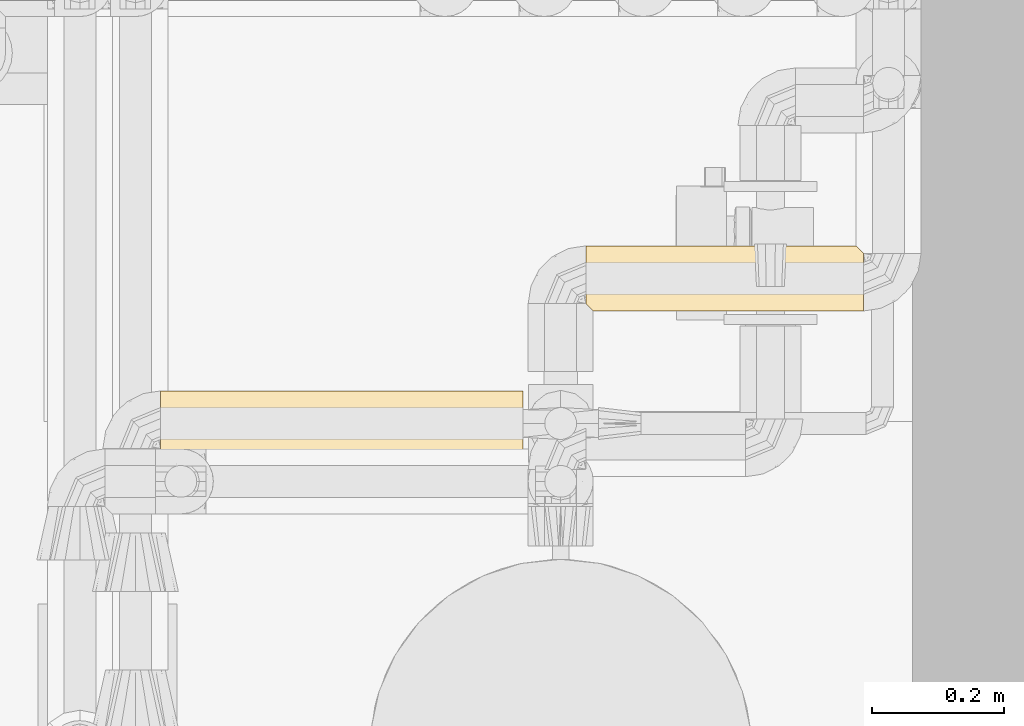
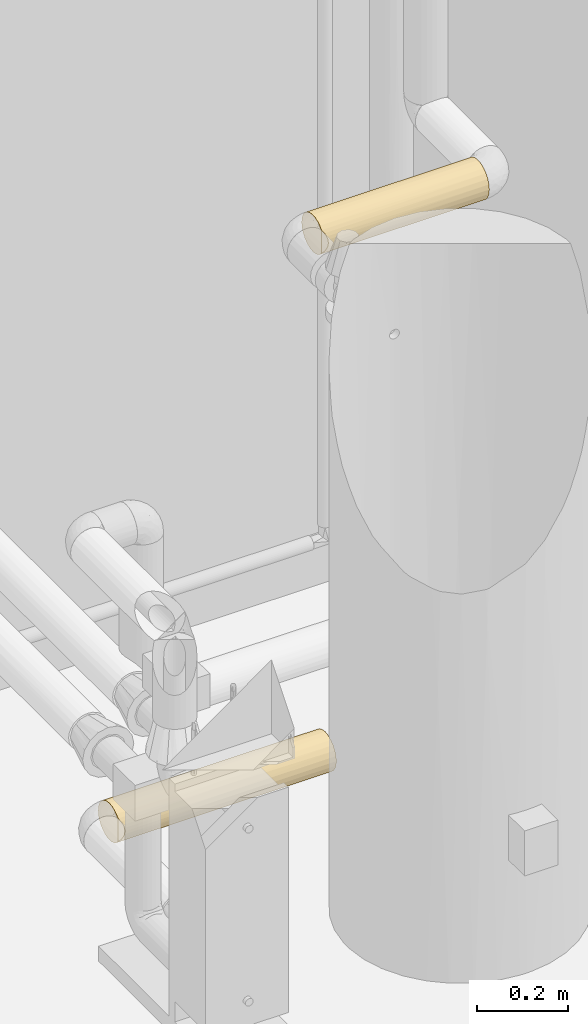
# One storey, part 38 of 94: 2 coverings.
"""IFC2X3 building model written with IfcOpenShell, lengths in millimetres."""

import ifcopenshell
import ifcopenshell.guid

model = None  # the IFC model being written
_history = None  # IfcOwnerHistory: only IFC2X3 demands one
_inside = {}  # id of a spatial element -> (the spatial element, [elements in it])
_under = {}  # id of a project, library or spatial element -> (it, [spatial elements below it])
_declared = {}  # id of a project -> (the project, [libraries it declares])
_typed = {}  # id of a type object -> (the type object, [elements of that type])
_made_of = {}  # id of a material, layer set ... -> (it, [elements and type objects made of it])


def new_model(schema):
    """Start an empty IFC model of exactly this schema.

    Asked for "IFC4X3", IfcOpenShell would pick the latest addendum, in which some entities
    have other attributes; the version numbers below select the first issue.
    IFC2X3 requires an IfcOwnerHistory on every rooted entity: one is made here for all.
    """
    global model, _history
    if schema == "IFC4X3":
        model = ifcopenshell.file(schema_version=(4, 3, 0, 0))
    else:
        model = ifcopenshell.file(schema=schema)
    _inside.clear()
    _under.clear()
    _declared.clear()
    _typed.clear()
    _made_of.clear()
    _history = None
    if model.schema == "IFC2X3":
        org = make("IfcOrganization", Name="unknown")
        user = make(
            "IfcPersonAndOrganization",
            ThePerson=make("IfcPerson", FamilyName="unknown"),
            TheOrganization=org,
        )
        app = make(
            "IfcApplication",
            ApplicationDeveloper=org,
            Version="unknown",
            ApplicationFullName="unknown",
            ApplicationIdentifier="unknown",
        )
        _history = make(
            "IfcOwnerHistory",
            OwningUser=user,
            OwningApplication=app,
            ChangeAction="ADDED",
            CreationDate=0,
        )
    return model


def make(cls, **values):
    """One entity of the class cls with the attributes given. An attribute that is None is left unset."""
    return model.create_entity(
        cls, **{name: value for name, value in values.items() if value is not None}
    )


def entity(cls, *values):
    """Any entity or typed value of the class cls, its attributes in the order of the schema. None: left unset."""
    e = model.create_entity(cls)
    for i, value in enumerate(values):
        if value is not None:
            e[i] = value
    return e


def rooted(cls, **values):
    """An entity with a GlobalId (a new one), such as an element, a storey or a relation."""
    return make(cls, GlobalId=ifcopenshell.guid.new(), OwnerHistory=_history, **values)


def si_unit(unit_type, name, prefix=None):
    """IfcSIUnit, for example si_unit("LENGTHUNIT", "METRE", prefix="MILLI")."""
    return make("IfcSIUnit", UnitType=unit_type, Prefix=prefix, Name=name)


def converted_unit(unit_type, name, factor, base, dimensions=None, offset=None):
    """IfcConversionBasedUnit, such as the inch: factor (a typed value) times the base unit."""
    return make(
        "IfcConversionBasedUnit"
        if offset is None
        else "IfcConversionBasedUnitWithOffset",
        ConversionOffset=offset,
        Dimensions=None
        if dimensions is None
        else entity("IfcDimensionalExponents", *dimensions),
        UnitType=unit_type,
        Name=name,
        ConversionFactor=make(
            "IfcMeasureWithUnit", ValueComponent=factor, UnitComponent=base
        ),
    )


def derived_unit(unit_type, elements):
    """IfcDerivedUnit: a product of units, each with its exponent."""
    return make(
        "IfcDerivedUnit",
        Elements=[
            make("IfcDerivedUnitElement", Unit=unit, Exponent=power)
            for unit, power in elements
        ],
        UnitType=unit_type,
    )


def assignment(units):
    """IfcUnitAssignment: the units of a project."""
    return None if units is None else make("IfcUnitAssignment", Units=units)


def point(xyz):
    """IfcCartesianPoint."""
    return None if xyz is None else make("IfcCartesianPoint", Coordinates=xyz)


def direction(xyz):
    """IfcDirection."""
    return None if xyz is None else make("IfcDirection", DirectionRatios=xyz)


def frame(location, z_axis=None, x_axis=None):
    """IfcAxis2Placement3D, a coordinate frame: its origin and axes. An axis left out is left unset."""
    return make(
        "IfcAxis2Placement3D",
        Location=point(location),
        Axis=direction(z_axis),
        RefDirection=direction(x_axis),
    )


def origin():
    """The frame at (0, 0, 0) with its axes left unset."""
    return frame((0.0, 0.0, 0.0))


def place(relative_to, where):
    """IfcLocalPlacement: puts the frame where relative to a parent placement (None: the world)."""
    return make(
        "IfcLocalPlacement", PlacementRelTo=relative_to, RelativePlacement=where
    )


def context(
    kind, dimensions, precision=None, world=None, true_north=None, identifier=None
):
    """IfcGeometricRepresentationContext, for example the 3D "Model" context."""
    return make(
        "IfcGeometricRepresentationContext",
        ContextIdentifier=identifier,
        ContextType=kind,
        CoordinateSpaceDimension=dimensions,
        Precision=precision,
        WorldCoordinateSystem=world,
        TrueNorth=true_north,
    )


def subcontext(parent, identifier, kind, view, scale=None):
    """IfcGeometricRepresentationSubContext, for example "Body" below "Model"."""
    return make(
        "IfcGeometricRepresentationSubContext",
        ContextIdentifier=identifier,
        ContextType=kind,
        ParentContext=parent,
        TargetScale=scale,
        TargetView=view,
    )


def project(units=None, contexts=None):
    """IfcProject with its units and contexts."""
    return rooted(
        "IfcProject",
        Name="project",
        RepresentationContexts=contexts,
        UnitsInContext=assignment(units),
    )


def spatial(cls, under=None, at=None, **own):
    """A site, building, storey or space (cls), placed at a placement, below another one or the project."""
    s = rooted(cls, ObjectPlacement=at, **own)
    if under is not None:
        _under.setdefault(under.id(), (under, []))[1].append(s)
    return s


def faces_of(points, faces, orient=None, outer=None):
    """IfcFace entities. A face is a list of loops; a loop is a list of indices into points, from 0.

    orient and outer hold one flag for each loop. By default every Orientation is true, the
    first loop of a face is its IfcFaceOuterBound and the others are IfcFaceBound.
    """
    made = []
    for i, loops in enumerate(faces):
        bounds = []
        for j, loop in enumerate(loops):
            is_outer = j == 0 if outer is None else outer[i][j]
            bounds.append(
                make(
                    "IfcFaceOuterBound" if is_outer else "IfcFaceBound",
                    Bound=make("IfcPolyLoop", Polygon=[points[k] for k in loop]),
                    Orientation=True if orient is None else orient[i][j],
                )
            )
        made.append(make("IfcFace", Bounds=bounds))
    return made


def faceted_brep(points, faces, orient=None, outer=None, voids=None):
    """IfcFacetedBrep: a solid bounded by flat faces; with voids (closed shells), ...WithVoids."""
    shared = [point(p) for p in points]
    hull = make("IfcClosedShell", CfsFaces=faces_of(shared, faces, orient, outer))
    if voids is None:
        return make("IfcFacetedBrep", Outer=hull)
    return make(
        "IfcFacetedBrepWithVoids",
        Outer=hull,
        Voids=[
            make(cls, CfsFaces=faces_of(shared, fs, o, b)) for cls, fs, o, b in voids
        ],
    )


def shape(context_of_items, identifier, shape_type, items):
    """IfcShapeRepresentation: the items that make up one representation, for example the "Body"."""
    return make(
        "IfcShapeRepresentation",
        ContextOfItems=context_of_items,
        RepresentationIdentifier=identifier,
        RepresentationType=shape_type,
        Items=items,
    )


def material(Name=None, Category=None):
    """IfcMaterial."""
    return make("IfcMaterial", Name=Name, Category=Category)


def made_of(thing, what):
    """Note that an element or type object is made of a material, layer set ...; save() writes the relation."""
    if what is not None:
        _made_of.setdefault(what.id(), (what, []))[1].append(thing)
    return thing


def element(
    cls,
    number,
    at=None,
    inside=None,
    cuts=None,
    type_object=None,
    material=None,
    context=None,
    identifier="Body",
    shape_type=None,
    held_by="IfcProductDefinitionShape",
    body=None,
    shapes=None,
    **own,
):
    """One element of the class cls, such as IfcWall. Its Tag is "e" and its number.

    at: its placement. inside: the storey or other place that contains it. cuts: it is an
    opening in that element (IfcRelVoidsElement). A single representation is given by context,
    identifier, shape_type and body (its items); several are given by shapes. held_by: the class
    of the entity that holds the representations. save() writes the other relations.
    """
    e = rooted(cls, Tag="e%d" % number, ObjectPlacement=at, **own)
    if body is not None:
        shapes = [shape(context, identifier, shape_type, body)]
    if shapes is not None:
        e.Representation = make(held_by, Representations=shapes)
    if inside is not None:
        _inside.setdefault(inside.id(), (inside, []))[1].append(e)
    if cuts is not None:
        rooted(
            "IfcRelVoidsElement", RelatingBuildingElement=cuts, RelatedOpeningElement=e
        )
    if type_object is not None:
        _typed.setdefault(type_object.id(), (type_object, []))[1].append(e)
    return made_of(e, material)


def aggregate(whole, parts):
    """IfcRelAggregates: a whole, such as a stair, and the parts it consists of."""
    return rooted("IfcRelAggregates", RelatingObject=whole, RelatedObjects=parts)


def save(model, path):
    """Write the relations noted so far, then the file.

    IfcRelAggregates (storeys below a building ...), IfcRelContainedInSpatialStructure (elements
    in a storey), IfcRelDefinesByType, IfcRelAssociatesMaterial and IfcRelDeclares: one each for
    every whole, place, type object, material and project.
    """
    for whole, parts in _under.values():
        aggregate(whole, parts)
    for where, things in _inside.values():
        rooted(
            "IfcRelContainedInSpatialStructure",
            RelatedElements=things,
            RelatingStructure=where,
        )
    for kind, things in _typed.values():
        rooted("IfcRelDefinesByType", RelatedObjects=things, RelatingType=kind)
    for what, things in _made_of.values():
        rooted("IfcRelAssociatesMaterial", RelatedObjects=things, RelatingMaterial=what)
    for by, libraries in _declared.values():
        rooted("IfcRelDeclares", RelatingContext=by, RelatedDefinitions=libraries)
    model.write(path)


model = new_model("IFC2X3")

# Units and contexts
model_context = context("Model", 3, precision=0.01, world=origin(), true_north=direction((6.123031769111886e-17, 1.0)))
body_context = subcontext(model_context, "Body", "Model", "MODEL_VIEW")
ifc_project = project(units=[si_unit("LENGTHUNIT", "METRE", prefix="MILLI"), si_unit("AREAUNIT", "SQUARE_METRE"), si_unit("VOLUMEUNIT", "CUBIC_METRE"), converted_unit("PLANEANGLEUNIT", "DEGREE", entity("IfcRatioMeasure", 0.017453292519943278), si_unit("PLANEANGLEUNIT", "RADIAN"), dimensions=[0, 0, 0, 0, 0, 0, 0]), si_unit("MASSUNIT", "GRAM", prefix="KILO"), derived_unit("MASSDENSITYUNIT", [(si_unit("MASSUNIT", "GRAM", prefix="KILO"), 1), (si_unit("LENGTHUNIT", "METRE"), -3)]), derived_unit("IONCONCENTRATIONUNIT", [(si_unit("MASSUNIT", "GRAM", prefix="KILO"), 1), (si_unit("LENGTHUNIT", "METRE"), -3)]), derived_unit("MOMENTOFINERTIAUNIT", [(si_unit("LENGTHUNIT", "METRE"), 4)]), si_unit("TIMEUNIT", "SECOND"), si_unit("FREQUENCYUNIT", "HERTZ"), si_unit("THERMODYNAMICTEMPERATUREUNIT", "DEGREE_CELSIUS"), derived_unit("THERMALTRANSMITTANCEUNIT", [(si_unit("MASSUNIT", "GRAM", prefix="KILO"), 1), (si_unit("THERMODYNAMICTEMPERATUREUNIT", "KELVIN"), -1), (si_unit("TIMEUNIT", "SECOND"), -3)]), derived_unit("THERMALCONDUCTANCEUNIT", [(si_unit("MASSUNIT", "GRAM", prefix="KILO"), 1), (si_unit("THERMODYNAMICTEMPERATUREUNIT", "KELVIN"), -1), (si_unit("TIMEUNIT", "SECOND"), -3), (si_unit("LENGTHUNIT", "METRE"), 1)]), derived_unit("VOLUMETRICFLOWRATEUNIT", [(si_unit("LENGTHUNIT", "METRE"), 3), (si_unit("TIMEUNIT", "SECOND"), -1)]), derived_unit("MASSFLOWRATEUNIT", [(si_unit("MASSUNIT", "GRAM", prefix="KILO"), 1), (si_unit("TIMEUNIT", "SECOND"), -1)]), derived_unit("ROTATIONALFREQUENCYUNIT", [(si_unit("TIMEUNIT", "SECOND"), -1)]), si_unit("ELECTRICCURRENTUNIT", "AMPERE"), si_unit("ELECTRICVOLTAGEUNIT", "VOLT"), si_unit("POWERUNIT", "WATT"), si_unit("FORCEUNIT", "NEWTON", prefix="KILO"), si_unit("ILLUMINANCEUNIT", "LUX"), si_unit("LUMINOUSFLUXUNIT", "LUMEN"), si_unit("LUMINOUSINTENSITYUNIT", "CANDELA"), derived_unit("USERDEFINED", [(si_unit("MASSUNIT", "GRAM", prefix="KILO"), -1), (si_unit("LENGTHUNIT", "METRE"), -2), (si_unit("TIMEUNIT", "SECOND"), 3), (si_unit("LUMINOUSFLUXUNIT", "LUMEN"), 1)]), derived_unit("USERDEFINED", [(si_unit("MASSUNIT", "GRAM", prefix="KILO"), 1), (si_unit("TIMEUNIT", "SECOND"), -3), (si_unit("LENGTHUNIT", "METRE"), 3), (si_unit("ELECTRICCURRENTUNIT", "AMPERE"), -2)]), derived_unit("SOUNDPOWERUNIT", [(si_unit("MASSUNIT", "GRAM", prefix="KILO"), 1), (si_unit("TIMEUNIT", "SECOND"), -3), (si_unit("LENGTHUNIT", "METRE"), 2)]), derived_unit("SOUNDPRESSUREUNIT", [(si_unit("MASSUNIT", "GRAM", prefix="KILO"), 1), (si_unit("LENGTHUNIT", "METRE"), -1), (si_unit("TIMEUNIT", "SECOND"), -2)]), derived_unit("LINEARVELOCITYUNIT", [(si_unit("LENGTHUNIT", "METRE"), 1), (si_unit("TIMEUNIT", "SECOND"), -1)]), si_unit("PRESSUREUNIT", "PASCAL"), derived_unit("USERDEFINED", [(si_unit("MASSUNIT", "GRAM", prefix="KILO"), 1), (si_unit("LENGTHUNIT", "METRE"), -2), (si_unit("TIMEUNIT", "SECOND"), -2)]), derived_unit("LINEARFORCEUNIT", [(si_unit("MASSUNIT", "GRAM", prefix="KILO"), 1), (si_unit("TIMEUNIT", "SECOND"), -2)]), derived_unit("PLANARFORCEUNIT", [(si_unit("MASSUNIT", "GRAM", prefix="KILO"), 1), (si_unit("LENGTHUNIT", "METRE"), -1), (si_unit("TIMEUNIT", "SECOND"), -2)]), derived_unit("SPECIFICHEATCAPACITYUNIT", [(si_unit("THERMODYNAMICTEMPERATUREUNIT", "KELVIN"), -1), (si_unit("LENGTHUNIT", "METRE"), 2), (si_unit("TIMEUNIT", "SECOND"), -2)]), derived_unit("HEATINGVALUEUNIT", [(si_unit("LENGTHUNIT", "METRE"), 2), (si_unit("TIMEUNIT", "SECOND"), -2)]), derived_unit("VAPORPERMEABILITYUNIT", [(si_unit("LENGTHUNIT", "METRE"), -1), (si_unit("TIMEUNIT", "SECOND"), 1)]), derived_unit("DYNAMICVISCOSITYUNIT", [(si_unit("MASSUNIT", "GRAM", prefix="KILO"), 1), (si_unit("TIMEUNIT", "SECOND"), -1), (si_unit("LENGTHUNIT", "METRE"), -1)]), derived_unit("THERMALEXPANSIONCOEFFICIENTUNIT", [(si_unit("THERMODYNAMICTEMPERATUREUNIT", "KELVIN"), -1)]), derived_unit("MODULUSOFELASTICITYUNIT", [(si_unit("MASSUNIT", "GRAM", prefix="KILO"), 1), (si_unit("LENGTHUNIT", "METRE"), -1), (si_unit("TIMEUNIT", "SECOND"), -2)]), derived_unit("ISOTHERMALMOISTURECAPACITYUNIT", [(si_unit("LENGTHUNIT", "METRE"), 3), (si_unit("MASSUNIT", "GRAM", prefix="KILO"), -1)]), derived_unit("MOISTUREDIFFUSIVITYUNIT", [(si_unit("TIMEUNIT", "SECOND"), -1), (si_unit("LENGTHUNIT", "METRE"), 2)])], contexts=[model_context])

# Site, building, storey
site_placement = place(None, origin())
site = spatial("IfcSite", under=ifc_project, at=site_placement, Name="Default", CompositionType="ELEMENT")
building_placement = place(site_placement, origin())
building = spatial("IfcBuilding", under=site, at=building_placement, CompositionType="ELEMENT")
storey_placement = place(building_placement, origin())
storey = spatial("IfcBuildingStorey", under=building, at=storey_placement, Name="Niveau 0", CompositionType="ELEMENT", Elevation=0.0)

# Coverings
ifc_material = material(Name="Isolation - Laine minérale")
covering_1_placement = place(storey_placement, frame((-6890.33595441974, 9312.207986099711, 93.27472776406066)))
element("IfcCovering", 1, at=covering_1_placement, inside=storey, material=ifc_material, Name="Isolation des canalisations:Laine minérale", ObjectType="Isolation des canalisations:Laine minérale", PredefinedType="INSULATION", context=body_context, shape_type="Brep", body=[
    faceted_brep([(1.5952722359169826, 20.474956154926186, 12.012544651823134), (1.5952722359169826, 12.725272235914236, 19.584352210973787), (1.5952722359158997, 12.725272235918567, 81.8661922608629), (1.5952722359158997, 20.474956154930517, 89.43799982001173), (1.5952722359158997, 29.696487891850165, 95.12737949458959), (1.5952722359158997, 39.94049838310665, 98.65694811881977), (1.5952722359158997, 50.72527223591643, 99.855272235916), (1.5952722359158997, 63.4410519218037, 98.1812080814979), (1.5952722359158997, 75.29027223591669, 93.27310032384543), (1.5952722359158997, 85.46542839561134, 85.46542839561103), (1.5952722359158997, 93.2731003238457, 75.29027223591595), (1.5952722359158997, 98.18120808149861, 63.44105192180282), (1.5952722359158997, 99.85527223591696, 50.72527223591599), (1.5952722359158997, 98.18120808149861, 38.00949255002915), (1.5952722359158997, 93.2731003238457, 26.16027223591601), (1.5952722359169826, 85.46542839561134, 15.985116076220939), (1.5952722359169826, 75.29027223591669, 8.17744414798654), (1.5952722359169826, 63.4410519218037, 3.269336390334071), (1.5952722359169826, 50.72527223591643, 1.5952722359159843), (1.5952722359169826, 39.94049838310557, 2.79359635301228), (1.5952722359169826, 29.696487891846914, 6.323164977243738), (549.1014943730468, 8.17744414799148, 26.160272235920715), (549.1014943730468, 15.985116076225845, 15.985116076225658), (549.1014943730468, 26.160272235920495, 8.177444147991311), (549.1014943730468, 38.009492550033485, 3.2693363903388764), (549.1014943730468, 50.725272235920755, 1.5952722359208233), (549.1014943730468, 63.44105192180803, 3.26933639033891), (549.1014943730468, 75.29027223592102, 8.177444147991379), (549.1014943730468, 85.46542839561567, 15.985116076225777), (549.1014943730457, 93.27310032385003, 26.16027223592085), (549.1014943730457, 98.18120808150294, 38.00949255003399), (549.1014943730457, 99.85527223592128, 50.725272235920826), (549.1014943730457, 98.18120808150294, 63.441051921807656), (549.1014943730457, 93.27310032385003, 75.29027223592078), (549.1014943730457, 85.46542839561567, 85.46542839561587), (549.1014943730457, 75.29027223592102, 93.27310032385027), (549.1014943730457, 63.44105192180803, 98.18120808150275), (549.1014943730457, 50.725272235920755, 99.85527223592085), (549.1014943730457, 38.009492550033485, 98.1812080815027), (549.1014943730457, 26.160272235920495, 93.2731003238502), (549.1014943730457, 15.985116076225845, 85.46542839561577), (549.1014943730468, 8.17744414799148, 75.29027223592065), (549.1014943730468, 3.2693363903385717, 63.44105192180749), (549.1014943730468, 1.5952722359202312, 50.72527223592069), (549.1014943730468, 3.2693363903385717, 38.00949255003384), (275.34838260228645, 89.70272183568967, 20.816823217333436), (275.3483856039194, 96.1154735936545, 31.9240350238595), (269.0266852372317, 60.27431313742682, 2.532194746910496), (304.3578483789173, 50.72527223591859, 1.5952722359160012), (246.33907529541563, 50.72527223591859, 1.5952722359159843), (269.0266940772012, 98.91834965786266, 41.17623099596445), (304.35815813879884, 99.85527223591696, 50.72527223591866), (275.34838288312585, 80.63372123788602, 11.747822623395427), (275.3483835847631, 69.52650923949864, 5.335070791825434), (261.50783391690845, 34.720895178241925, 4.2751181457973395), (260.0122294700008, 25.771896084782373, 8.404049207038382), (271.6166372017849, 17.873585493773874, 14.194140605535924), (9.859172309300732, 4.461372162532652, 34.190204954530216), (6.3554633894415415, 7.965081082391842, 26.53182369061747), (265.8357301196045, 3.233667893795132, 38.14336391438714), (274.89631126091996, 10.296907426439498, 22.809251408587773), (12.725272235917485, 1.5952722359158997, 50.72527223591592), (12.00344463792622, 2.3170998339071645, 42.33445912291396), (257.46859971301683, 1.5952722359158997, 50.7252722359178), (265.83573013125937, 3.233667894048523, 63.30718055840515), (274.8963112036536, 10.296907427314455, 78.64129306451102), (6.355463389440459, 7.965081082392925, 74.91872078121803), (9.859172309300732, 4.461372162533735, 67.26033951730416), (12.00344463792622, 2.3170998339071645, 59.11608534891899), (271.6166367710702, 17.873585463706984, 87.25640383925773), (260.01222937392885, 25.771896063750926, 93.04649525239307), (261.5078340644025, 34.72089518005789, 97.17542632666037), (246.33859948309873, 50.72527223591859, 99.855272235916), (275.3483833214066, 69.52650926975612, 96.11547366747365), (281.6700819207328, 60.27431315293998, 98.91834972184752), (269.0266845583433, 98.91834972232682, 60.27431315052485), (275.3483833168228, 96.1154736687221, 69.52650926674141), (275.34838328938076, 80.6337212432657, 89.70272184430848), (275.34838329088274, 89.70272184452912, 80.63372124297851)], [[[0, 1, 2, 3, 4, 5, 6, 7, 8, 9, 10, 11, 12, 13, 14, 15, 16, 17, 18, 19, 20]], [[21, 22, 23, 24, 25, 26, 27, 28, 29, 30, 31, 32, 33, 34, 35, 36, 37, 38, 39, 40, 41, 42, 43, 44]], [[45, 46, 29]], [[47, 25, 48, 49, 18]], [[30, 29, 46]], [[30, 46, 50]], [[46, 13, 50]], [[46, 45, 14]], [[28, 45, 29]], [[50, 12, 51, 31]], [[45, 15, 14]], [[31, 30, 50]], [[52, 45, 28]], [[13, 46, 14]], [[53, 27, 26]], [[12, 50, 13]], [[27, 52, 28]], [[18, 17, 47]], [[52, 16, 15]], [[53, 52, 27]], [[47, 17, 53]], [[53, 16, 52]], [[45, 52, 15]], [[16, 53, 17]], [[26, 47, 53]], [[25, 47, 26]], [[54, 49, 24]], [[23, 55, 54]], [[56, 55, 23]], [[57, 58, 59]], [[24, 49, 48, 25]], [[19, 18, 49]], [[19, 54, 20]], [[55, 20, 54]], [[59, 44, 43]], [[0, 55, 56]], [[21, 44, 59]], [[22, 60, 56]], [[56, 23, 22]], [[61, 62, 63]], [[0, 20, 55]], [[63, 62, 59]], [[63, 59, 43]], [[58, 1, 60]], [[59, 62, 57]], [[1, 0, 56]], [[59, 58, 60]], [[60, 21, 59]], [[23, 54, 24]], [[60, 22, 21]], [[1, 56, 60]], [[49, 54, 19]], [[43, 64, 63]], [[64, 43, 42]], [[41, 65, 64]], [[64, 66, 67]], [[68, 64, 67]], [[40, 65, 41]], [[2, 66, 65]], [[66, 64, 65]], [[68, 61, 63]], [[40, 39, 69]], [[63, 64, 68]], [[39, 70, 69]], [[65, 40, 69]], [[39, 38, 71]], [[70, 3, 69]], [[2, 69, 3]], [[72, 6, 5]], [[71, 4, 70]], [[39, 71, 70]], [[72, 71, 38]], [[4, 71, 5]], [[72, 5, 71]], [[37, 72, 38]], [[4, 3, 70]], [[2, 65, 69]], [[41, 64, 42]], [[73, 74, 36]], [[32, 75, 76]], [[37, 74, 6, 72]], [[73, 36, 35]], [[74, 37, 36]], [[7, 73, 8]], [[6, 74, 7]], [[77, 9, 8]], [[77, 73, 35]], [[78, 77, 34]], [[12, 75, 31, 51]], [[76, 33, 32]], [[75, 11, 76]], [[12, 11, 75]], [[78, 10, 9]], [[76, 78, 33]], [[31, 75, 32]], [[76, 10, 78]], [[77, 78, 9]], [[34, 77, 35]], [[10, 76, 11]], [[33, 78, 34]], [[7, 74, 73]], [[73, 77, 8]], [[1, 58, 57, 62, 61, 68, 67, 66, 2]]]),
])
covering_2_placement = place(storey_placement, frame((-6247.8316184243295, 9531.358570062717, 1313.147029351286)))
element("IfcCovering", 2, at=covering_2_placement, inside=storey, material=ifc_material, Name="Isolation des canalisations:Laine minérale", ObjectType="Isolation des canalisations:Laine minérale", PredefinedType="INSULATION", context=body_context, shape_type="Brep", body=[
    faceted_brep([(1.599502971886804, 20.474956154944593, 12.012544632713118), (1.5990443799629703, 12.725272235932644, 19.584352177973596), (1.5952722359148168, 12.725272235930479, 81.86619211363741), (1.594813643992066, 20.47495615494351, 89.4379996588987), (1.5944690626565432, 29.696487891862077, 95.12737932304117), (1.5942552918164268, 39.940498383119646, 98.65694794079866), (1.594182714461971, 50.72527223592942, 99.855272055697), (1.5942841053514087, 63.441051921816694, 98.1812079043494), (1.5945813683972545, 75.29027223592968, 93.27310015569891), (1.5950542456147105, 85.46542839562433, 85.46542824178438), (1.5956705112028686, 93.2731003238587, 75.2902721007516), (1.5963881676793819, 98.1812080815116, 63.4410518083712), (1.5971583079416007, 99.85527223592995, 50.72527214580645), (1.5979284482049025, 98.1812080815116, 38.0094924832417), (1.5986461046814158, 93.2731003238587, 26.16027219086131), (1.599262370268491, 85.46542839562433, 15.985116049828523), (1.599735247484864, 75.29027223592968, 8.177444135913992), (1.6000325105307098, 63.441051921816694, 3.2693363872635), (1.600133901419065, 50.72527223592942, 1.5952722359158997), (1.6000613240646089, 39.94049838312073, 2.793596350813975), (1.5998475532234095, 29.696487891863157, 6.323164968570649), (420.92614605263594, 3.26933639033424, 63.46644881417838), (420.9269161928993, 1.5952722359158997, 50.75066915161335), (420.9276863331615, 3.26933639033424, 38.0348894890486), (420.928403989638, 8.17744414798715, 26.185669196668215), (420.92902025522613, 15.985116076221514, 16.01051305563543), (420.9294931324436, 26.160272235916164, 8.202841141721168), (420.9297903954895, 38.00949255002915, 3.2947333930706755), (420.9298917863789, 50.72527223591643, 1.6206692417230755), (420.92981920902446, 61.51004608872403, 2.818993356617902), (420.92960543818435, 71.75405657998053, 6.348561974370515), (420.9292608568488, 80.97558831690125, 12.037941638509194), (420.92880226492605, 88.72527223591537, 19.60974918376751), (420.9250301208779, 88.7252722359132, 81.89158911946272), (420.92457152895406, 80.97558831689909, 89.46339666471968), (420.92422694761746, 71.75405657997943, 95.152776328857), (420.92401317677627, 61.51004608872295, 98.68234494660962), (420.9239405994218, 50.72527223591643, 99.88066906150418), (420.9240419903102, 38.00949255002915, 98.2066049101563), (420.924339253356, 26.160272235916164, 93.29849716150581), (420.9248121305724, 15.985116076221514, 85.49082524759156), (420.9254283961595, 8.17744414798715, 75.31566910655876), (410.5192520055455, 99.1334446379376, 42.359225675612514), (412.6640175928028, 96.98917230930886, 34.21510139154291), (416.1681903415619, 93.48546338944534, 26.556932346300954), (409.7969162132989, 99.85527223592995, 50.749995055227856), (9.862059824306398, 4.46137216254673, 34.190705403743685), (12.005838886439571, 2.317099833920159, 42.3350894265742), (12.72715828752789, 1.5952722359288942, 50.725946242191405), (6.358814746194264, 7.965081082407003, 26.53211194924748), (12.004822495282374, 2.317099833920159, 59.11671562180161), (9.860056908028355, 4.46137216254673, 67.26083990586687), (6.355884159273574, 7.96508108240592, 74.91900895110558), (416.16525975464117, 93.48546338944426, 74.94382934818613), (412.66201467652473, 96.98917230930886, 67.28523589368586), (410.5182356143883, 99.1334446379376, 59.14085187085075)], [[[0, 1, 2, 3, 4, 5, 6, 7, 8, 9, 10, 11, 12, 13, 14, 15, 16, 17, 18, 19, 20]], [[21, 22, 23, 24, 25, 26, 27, 28, 29, 30, 31, 32, 33, 34, 35, 36, 37, 38, 39, 40, 41]], [[42, 43, 13]], [[44, 32, 14]], [[43, 44, 14]], [[45, 42, 12]], [[12, 42, 13]], [[43, 14, 13]], [[32, 15, 14]], [[16, 31, 30]], [[17, 30, 29]], [[18, 29, 28]], [[15, 31, 16]], [[16, 30, 17]], [[29, 18, 17]], [[31, 15, 32]], [[19, 28, 27]], [[20, 27, 26]], [[0, 26, 25]], [[18, 28, 19]], [[19, 27, 20]], [[26, 0, 20]], [[25, 1, 0]], [[46, 24, 23]], [[23, 22, 47]], [[48, 47, 22]], [[49, 1, 24]], [[47, 46, 23]], [[49, 24, 46]], [[24, 1, 25]], [[50, 48, 22]], [[50, 22, 21]], [[51, 21, 41]], [[51, 50, 21]], [[2, 52, 41]], [[51, 41, 52]], [[41, 40, 2]], [[3, 40, 39]], [[4, 39, 38]], [[5, 38, 37]], [[3, 39, 4]], [[4, 38, 5]], [[37, 6, 5]], [[40, 3, 2]], [[6, 37, 36]], [[7, 36, 35]], [[8, 35, 34]], [[6, 36, 7]], [[7, 35, 8]], [[34, 9, 8]], [[34, 33, 9]], [[33, 53, 10]], [[54, 55, 11]], [[53, 54, 10]], [[10, 54, 11]], [[12, 11, 55]], [[45, 12, 55]], [[33, 10, 9]], [[1, 49, 46, 47, 48, 50, 51, 52, 2]], [[42, 45, 55, 54, 53, 33, 32, 44, 43]]]),
])

save(model, "model.ifc")
